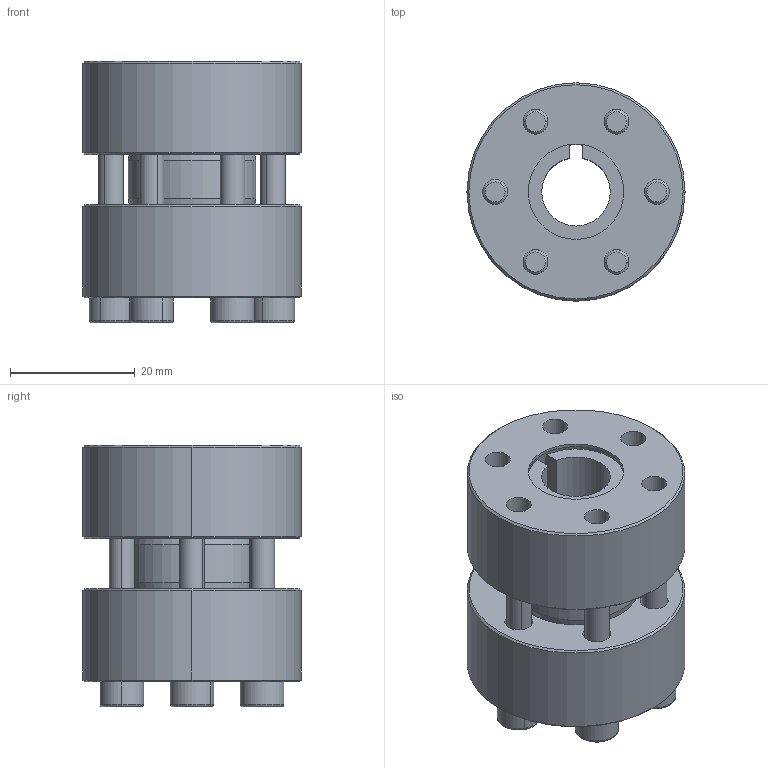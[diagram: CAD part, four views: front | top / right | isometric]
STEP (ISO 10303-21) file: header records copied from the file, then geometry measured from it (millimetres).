
FILE_DESCRIPTION (( 'STEP AP214' ), '1' );
FILE_NAME ('CONEX-M-11x35-M-002.step', '2014-07-01T12:12:18', ( 'Pc' ), ( '' ), 'SwSTEP 2.0', 'SolidWorks 2013', '' );
FILE_SCHEMA (( 'AUTOMOTIVE_DESIGN' ));
Length unit declared in the file: millimetre
Products named in the file (1): CONEX-M-11x35-M-002
Bounding box: 35 x 35 x 42.02 mm (x, y, z)
Volume: 27921.7 mm3; surface area: 16795.7 mm2
Topology: 9 solids, 9 shells, 226 faces, 506 edges, 298 vertices
Faces by surface type: plane 98, cylinder 62, cone 42, torus 24
Entity records: 8822 total; most frequent: DIRECTION 1182, CARTESIAN_POINT 1037, ORIENTED_EDGE 988, EDGE_CURVE 494, AXIS2_PLACEMENT_3D 465, VERTEX_POINT 298, EDGE_LOOP 266, LINE 252
